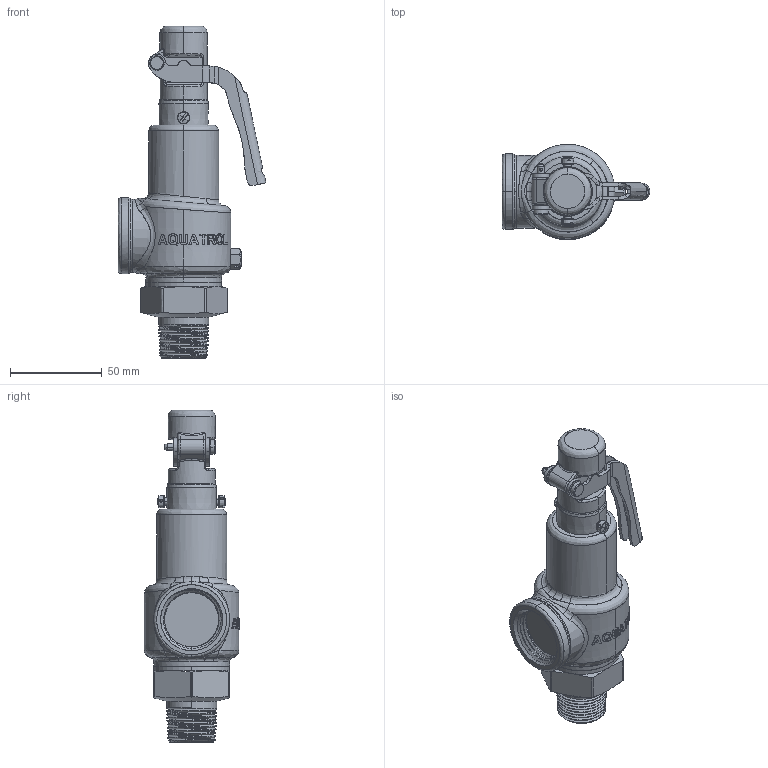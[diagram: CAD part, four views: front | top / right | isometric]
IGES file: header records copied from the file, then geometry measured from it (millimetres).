
Start section: SolidWorks IGES file using analytic representation for surfaces
Global section: file name: C:\Design\Design\Aquatrol\Customer 3D Files\Series 88 Customer Files\Series 88 750 x 1000\Customer\Series 88 750 x 1000.IGS; native system: SolidWorks 2015; preprocessor: SolidWorks 2015; author: Karl; date: 141208.100628; units: inch
Bounding box: 80.55 x 51.97 x 180.97 mm (x, y, z)
Surface area: 34342.4 mm2 (no closed solid volume)
Topology: 0 solids, 0 shells, 447 faces, 7931 edges, 7931 vertices
Faces by surface type: bspline 262, revolution 185
